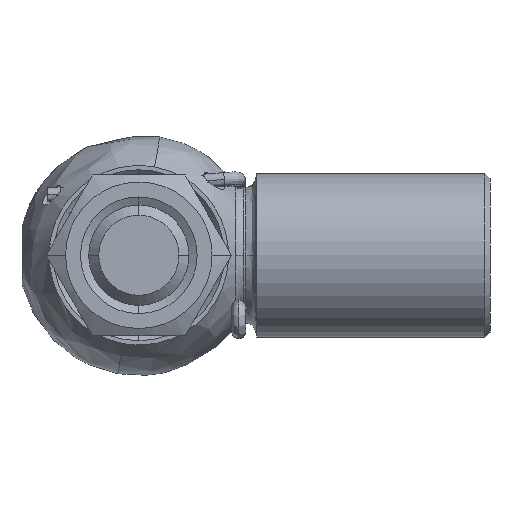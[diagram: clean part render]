
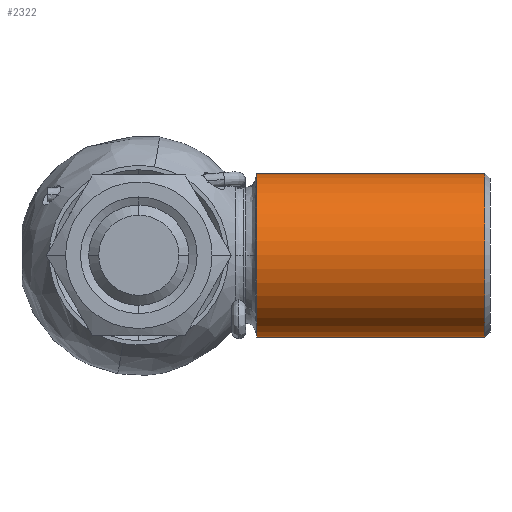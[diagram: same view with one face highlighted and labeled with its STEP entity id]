
A CAD part, front view. The second image highlights one B-rep face of the part: STEP entity #2322.
In plain terms, the highlighted cylindrical face has radius 8.15 mm (diameter 16.3 mm), a partial arc.
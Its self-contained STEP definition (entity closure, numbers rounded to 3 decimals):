
#25 = CARTESIAN_POINT ( 'NONE',  ( -0.496, 0.002, 8.15 ) ) ;
#202 = VERTEX_POINT ( 'NONE', #25 ) ;
#225 = CIRCLE ( 'NONE', #6118, 8.15 ) ;
#424 = EDGE_CURVE ( 'NONE', #5248, #2668, #225, .T. ) ;
#460 = EDGE_CURVE ( 'NONE', #2575, #5248, #892, .T. ) ;
#678 = EDGE_CURVE ( 'NONE', #2575, #202, #5695, .T. ) ;
#698 = FACE_OUTER_BOUND ( 'NONE', #727, .T. ) ;
#727 = EDGE_LOOP ( 'NONE', ( #3020, #4925, #4054, #2429 ) ) ;
#892 = LINE ( 'NONE', #4546, #2119 ) ;
#966 = CARTESIAN_POINT ( 'NONE',  ( -23.221, 0.002, 8.15 ) ) ;
#1092 = CARTESIAN_POINT ( 'NONE',  ( -11.608, 0.002, 0. ) ) ;
#1522 = DIRECTION ( 'NONE',  ( -1., 0., 0. ) ) ;
#1558 = CARTESIAN_POINT ( 'NONE',  ( -0.496, 0.002, 0. ) ) ;
#1567 = LINE ( 'NONE', #5990, #2222 ) ;
#2005 = DIRECTION ( 'NONE',  ( -1., 0., 0. ) ) ;
#2058 = CARTESIAN_POINT ( 'NONE',  ( -23.221, 0.002, -8.15 ) ) ;
#2119 = VECTOR ( 'NONE', #2771, 1000. ) ;
#2174 = DIRECTION ( 'NONE',  ( 0., 1., 0. ) ) ;
#2222 = VECTOR ( 'NONE', #4627, 1000. ) ;
#2322 = ADVANCED_FACE ( 'NONE', ( #698 ), #4527, .T. ) ;
#2429 = ORIENTED_EDGE ( 'NONE', *, *, #424, .F. ) ;
#2575 = VERTEX_POINT ( 'NONE', #2912 ) ;
#2668 = VERTEX_POINT ( 'NONE', #966 ) ;
#2771 = DIRECTION ( 'NONE',  ( -1., 0., 0. ) ) ;
#2912 = CARTESIAN_POINT ( 'NONE',  ( -0.496, 0.002, -8.15 ) ) ;
#3020 = ORIENTED_EDGE ( 'NONE', *, *, #460, .F. ) ;
#3057 = DIRECTION ( 'NONE',  ( -1., 0., 0. ) ) ;
#3222 = AXIS2_PLACEMENT_3D ( 'NONE', #1558, #1522, #3369 ) ;
#3369 = DIRECTION ( 'NONE',  ( 0., 0., 1. ) ) ;
#3884 = AXIS2_PLACEMENT_3D ( 'NONE', #1092, #2005, #3927 ) ;
#3927 = DIRECTION ( 'NONE',  ( 0., 0., 1. ) ) ;
#4054 = ORIENTED_EDGE ( 'NONE', *, *, #5653, .T. ) ;
#4517 = CARTESIAN_POINT ( 'NONE',  ( -23.221, 0.002, 0. ) ) ;
#4527 = CYLINDRICAL_SURFACE ( 'NONE', #3884, 8.15 ) ;
#4546 = CARTESIAN_POINT ( 'NONE',  ( -11.608, 0.002, -8.15 ) ) ;
#4627 = DIRECTION ( 'NONE',  ( -1., 0., 0. ) ) ;
#4925 = ORIENTED_EDGE ( 'NONE', *, *, #678, .T. ) ;
#5248 = VERTEX_POINT ( 'NONE', #2058 ) ;
#5653 = EDGE_CURVE ( 'NONE', #202, #2668, #1567, .T. ) ;
#5695 = CIRCLE ( 'NONE', #3222, 8.15 ) ;
#5990 = CARTESIAN_POINT ( 'NONE',  ( -11.608, 0.002, 8.15 ) ) ;
#6118 = AXIS2_PLACEMENT_3D ( 'NONE', #4517, #3057, #2174 ) ;
